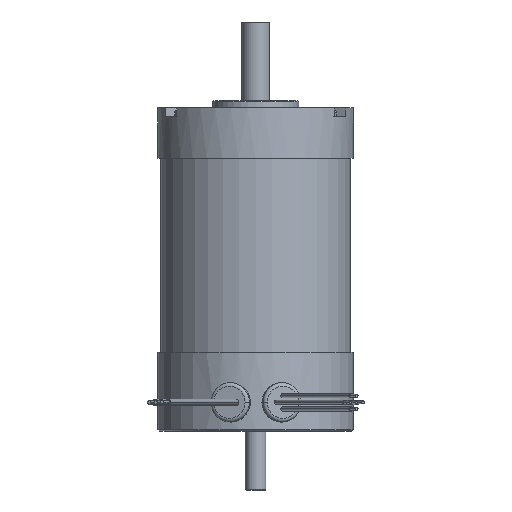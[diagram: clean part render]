
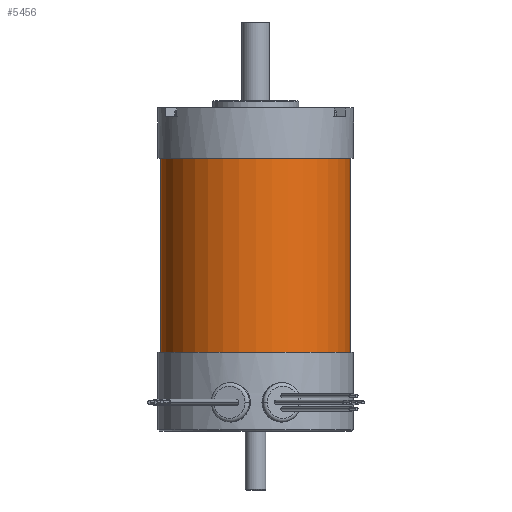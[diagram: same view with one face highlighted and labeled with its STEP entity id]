
A CAD part, front view. The second image highlights one B-rep face of the part: STEP entity #5456.
In plain terms, the highlighted cylindrical face has radius 27.495 mm (diameter 54.991 mm), a partial arc.
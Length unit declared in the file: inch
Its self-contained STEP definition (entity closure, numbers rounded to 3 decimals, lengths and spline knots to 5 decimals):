
#140 = LINE ( 'NONE', #10282, #11254 ) ;
#611 = EDGE_CURVE ( 'NONE', #9612, #13545, #12418, .T. ) ;
#935 = VERTEX_POINT ( 'NONE', #1684 ) ;
#980 = DIRECTION ( 'NONE',  ( -1., 0., 0. ) ) ;
#1559 = EDGE_LOOP ( 'NONE', ( #8000, #10214, #4154, #11682 ) ) ;
#1684 = CARTESIAN_POINT ( 'NONE',  ( 1.0825, 0., -0.575 ) ) ;
#2780 = DIRECTION ( 'NONE',  ( 0., 0., 1. ) ) ;
#3868 = AXIS2_PLACEMENT_3D ( 'NONE', #13856, #7495, #980 ) ;
#4154 = ORIENTED_EDGE ( 'NONE', *, *, #7144, .T. ) ;
#4217 = CIRCLE ( 'NONE', #7096, 1.0825 ) ;
#4593 = DIRECTION ( 'NONE',  ( 0., 0., -1. ) ) ;
#4687 = CARTESIAN_POINT ( 'NONE',  ( -1.0825, 0., -2.79 ) ) ;
#5002 = VECTOR ( 'NONE', #6257, 39.37008 ) ;
#5456 = ADVANCED_FACE ( 'NONE', ( #13802 ), #6831, .T. ) ;
#6058 = AXIS2_PLACEMENT_3D ( 'NONE', #6108, #7197, #12536 ) ;
#6108 = CARTESIAN_POINT ( 'NONE',  ( 0., 0., -2.79 ) ) ;
#6161 = LINE ( 'NONE', #12626, #5002 ) ;
#6257 = DIRECTION ( 'NONE',  ( 0., 0., 1. ) ) ;
#6831 = CYLINDRICAL_SURFACE ( 'NONE', #6058, 1.0825 ) ;
#7096 = AXIS2_PLACEMENT_3D ( 'NONE', #10939, #4593, #12010 ) ;
#7144 = EDGE_CURVE ( 'NONE', #9612, #935, #140, .T. ) ;
#7197 = DIRECTION ( 'NONE',  ( 0., 0., 1. ) ) ;
#7495 = DIRECTION ( 'NONE',  ( 0., 0., -1. ) ) ;
#8000 = ORIENTED_EDGE ( 'NONE', *, *, #11894, .F. ) ;
#9612 = VERTEX_POINT ( 'NONE', #12612 ) ;
#10214 = ORIENTED_EDGE ( 'NONE', *, *, #611, .F. ) ;
#10282 = CARTESIAN_POINT ( 'NONE',  ( 1.0825, 0., -2.79 ) ) ;
#10939 = CARTESIAN_POINT ( 'NONE',  ( 0., 0., -0.575 ) ) ;
#11235 = VERTEX_POINT ( 'NONE', #12773 ) ;
#11254 = VECTOR ( 'NONE', #2780, 39.37008 ) ;
#11682 = ORIENTED_EDGE ( 'NONE', *, *, #12700, .T. ) ;
#11894 = EDGE_CURVE ( 'NONE', #13545, #11235, #6161, .T. ) ;
#12010 = DIRECTION ( 'NONE',  ( -1., 0., 0. ) ) ;
#12418 = CIRCLE ( 'NONE', #3868, 1.0825 ) ;
#12536 = DIRECTION ( 'NONE',  ( 1., 0., 0. ) ) ;
#12612 = CARTESIAN_POINT ( 'NONE',  ( 1.0825, 0., -2.79 ) ) ;
#12626 = CARTESIAN_POINT ( 'NONE',  ( -1.0825, 0., -2.79 ) ) ;
#12700 = EDGE_CURVE ( 'NONE', #935, #11235, #4217, .T. ) ;
#12773 = CARTESIAN_POINT ( 'NONE',  ( -1.0825, 0., -0.575 ) ) ;
#13545 = VERTEX_POINT ( 'NONE', #4687 ) ;
#13802 = FACE_OUTER_BOUND ( 'NONE', #1559, .T. ) ;
#13856 = CARTESIAN_POINT ( 'NONE',  ( 0., 0., -2.79 ) ) ;
